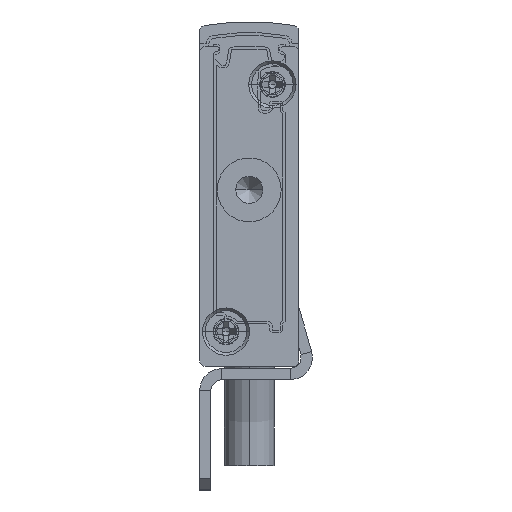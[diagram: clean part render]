
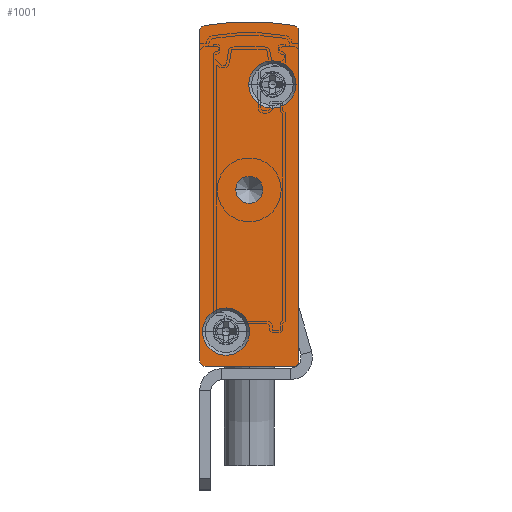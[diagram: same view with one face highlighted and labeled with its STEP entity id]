
A CAD part, front view. The second image highlights one B-rep face of the part: STEP entity #1001.
In plain terms, the highlighted planar face has unit normal (0, -1, 0).
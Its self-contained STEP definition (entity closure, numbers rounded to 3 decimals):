
#55 = AXIS2_PLACEMENT_3D ( 'NONE', #17874, #19758, #10662 ) ;
#662 = DIRECTION ( 'NONE',  ( 0., 1., 0. ) ) ;
#728 = EDGE_CURVE ( 'NONE', #22442, #22239, #19272, .T. ) ;
#909 = AXIS2_PLACEMENT_3D ( 'NONE', #8370, #10234, #2995 ) ;
#962 = ORIENTED_EDGE ( 'NONE', *, *, #8451, .F. ) ;
#1001 = ADVANCED_FACE ( 'NONE', ( #12556, #8794, #7605, #7032 ), #14169, .F. ) ;
#1048 = VECTOR ( 'NONE', #20362, 1000. ) ;
#1121 = VERTEX_POINT ( 'NONE', #1480 ) ;
#1152 = DIRECTION ( 'NONE',  ( -1., 0., 0. ) ) ;
#1236 = CIRCLE ( 'NONE', #23729, 2.15 ) ;
#1296 = CARTESIAN_POINT ( 'NONE',  ( -6.6, -2.5, 3.15 ) ) ;
#1480 = CARTESIAN_POINT ( 'NONE',  ( -3.25, -2.5, 16. ) ) ;
#1517 = VERTEX_POINT ( 'NONE', #9874 ) ;
#1530 = CARTESIAN_POINT ( 'NONE',  ( -8.592, -2.5, 30.893 ) ) ;
#1574 = LINE ( 'NONE', #2061, #21015 ) ;
#1593 = CIRCLE ( 'NONE', #14687, 2.15 ) ;
#1635 = EDGE_CURVE ( 'NONE', #22239, #6242, #2069, .T. ) ;
#1828 = CIRCLE ( 'NONE', #22289, 0.5 ) ;
#1911 = EDGE_CURVE ( 'NONE', #7569, #1121, #2046, .T. ) ;
#1958 = DIRECTION ( 'NONE',  ( -1., 0., 0. ) ) ;
#2046 = CIRCLE ( 'NONE', #21791, 1.25 ) ;
#2061 = CARTESIAN_POINT ( 'NONE',  ( 0., -2.5, 30.402 ) ) ;
#2069 = LINE ( 'NONE', #16678, #16267 ) ;
#2312 = DIRECTION ( 'NONE',  ( 0., 1., 0. ) ) ;
#2455 = AXIS2_PLACEMENT_3D ( 'NONE', #6481, #3149, #1152 ) ;
#2516 = DIRECTION ( 'NONE',  ( -1., 0., 0. ) ) ;
#2791 = CIRCLE ( 'NONE', #55, 23.658 ) ;
#2932 = EDGE_CURVE ( 'NONE', #1121, #7569, #23420, .T. ) ;
#2995 = DIRECTION ( 'NONE',  ( -1., 0., 0. ) ) ;
#3116 = CARTESIAN_POINT ( 'NONE',  ( -0.5, -2.5, 30.402 ) ) ;
#3149 = DIRECTION ( 'NONE',  ( 0., 1., 0. ) ) ;
#3490 = CARTESIAN_POINT ( 'NONE',  ( 0., -2.5, 0.5 ) ) ;
#3719 = CARTESIAN_POINT ( 'NONE',  ( -8.5, -2.5, 30.402 ) ) ;
#3808 = AXIS2_PLACEMENT_3D ( 'NONE', #13715, #18919, #20978 ) ;
#4063 = VERTEX_POINT ( 'NONE', #9689 ) ;
#4069 = DIRECTION ( 'NONE',  ( -1., 0., 0. ) ) ;
#4273 = EDGE_LOOP ( 'NONE', ( #962, #16618 ) ) ;
#4740 = ORIENTED_EDGE ( 'NONE', *, *, #13744, .F. ) ;
#5759 = CARTESIAN_POINT ( 'NONE',  ( -4.45, -2.5, 3.15 ) ) ;
#6242 = VERTEX_POINT ( 'NONE', #9551 ) ;
#6481 = CARTESIAN_POINT ( 'NONE',  ( -0.5, -2.5, 0.5 ) ) ;
#7032 = FACE_BOUND ( 'NONE', #19502, .T. ) ;
#7548 = ORIENTED_EDGE ( 'NONE', *, *, #17623, .F. ) ;
#7569 = VERTEX_POINT ( 'NONE', #11128 ) ;
#7605 = FACE_OUTER_BOUND ( 'NONE', #16830, .T. ) ;
#7796 = ORIENTED_EDGE ( 'NONE', *, *, #9974, .F. ) ;
#8244 = CIRCLE ( 'NONE', #8914, 0.5 ) ;
#8370 = CARTESIAN_POINT ( 'NONE',  ( -8.5, -2.5, 30.402 ) ) ;
#8410 = DIRECTION ( 'NONE',  ( 0., -1., 0. ) ) ;
#8451 = EDGE_CURVE ( 'NONE', #17359, #22389, #1593, .T. ) ;
#8491 = ORIENTED_EDGE ( 'NONE', *, *, #1911, .T. ) ;
#8794 = FACE_BOUND ( 'NONE', #11952, .T. ) ;
#8889 = ORIENTED_EDGE ( 'NONE', *, *, #20019, .F. ) ;
#8914 = AXIS2_PLACEMENT_3D ( 'NONE', #3719, #14833, #1958 ) ;
#9078 = EDGE_CURVE ( 'NONE', #12186, #18896, #1236, .T. ) ;
#9551 = CARTESIAN_POINT ( 'NONE',  ( -8.5, -2.5, 0. ) ) ;
#9620 = CARTESIAN_POINT ( 'NONE',  ( -0.408, -2.5, 30.893 ) ) ;
#9688 = EDGE_CURVE ( 'NONE', #11070, #1517, #22053, .T. ) ;
#9689 = CARTESIAN_POINT ( 'NONE',  ( -9., -2.5, 0.5 ) ) ;
#9874 = CARTESIAN_POINT ( 'NONE',  ( 0., -2.5, 30.402 ) ) ;
#9974 = EDGE_CURVE ( 'NONE', #18896, #12186, #20264, .T. ) ;
#10234 = DIRECTION ( 'NONE',  ( 0., 1., 0. ) ) ;
#10662 = DIRECTION ( 'NONE',  ( -1., 0., 0. ) ) ;
#10885 = CARTESIAN_POINT ( 'NONE',  ( -8.75, -2.5, 3.15 ) ) ;
#10903 = ORIENTED_EDGE ( 'NONE', *, *, #14332, .F. ) ;
#10915 = LINE ( 'NONE', #18471, #1048 ) ;
#11070 = VERTEX_POINT ( 'NONE', #9620 ) ;
#11128 = CARTESIAN_POINT ( 'NONE',  ( -5.75, -2.5, 16. ) ) ;
#11534 = CARTESIAN_POINT ( 'NONE',  ( -8.5, -2.5, 0.5 ) ) ;
#11598 = EDGE_CURVE ( 'NONE', #6242, #4063, #1828, .T. ) ;
#11952 = EDGE_LOOP ( 'NONE', ( #20692, #7796 ) ) ;
#12133 = DIRECTION ( 'NONE',  ( 1., 0., 0. ) ) ;
#12186 = VERTEX_POINT ( 'NONE', #5759 ) ;
#12203 = CARTESIAN_POINT ( 'NONE',  ( -4.55, -2.5, 25.55 ) ) ;
#12308 = EDGE_CURVE ( 'NONE', #22389, #17359, #19431, .T. ) ;
#12556 = FACE_BOUND ( 'NONE', #4273, .T. ) ;
#12812 = ORIENTED_EDGE ( 'NONE', *, *, #9688, .F. ) ;
#13296 = CARTESIAN_POINT ( 'NONE',  ( -2.4, -2.5, 25.55 ) ) ;
#13391 = DIRECTION ( 'NONE',  ( 0., 1., 0. ) ) ;
#13653 = CARTESIAN_POINT ( 'NONE',  ( -0.5, -2.5, 0. ) ) ;
#13715 = CARTESIAN_POINT ( 'NONE',  ( -2.4, -2.5, 25.55 ) ) ;
#13744 = EDGE_CURVE ( 'NONE', #4063, #17935, #10915, .T. ) ;
#14169 = PLANE ( 'NONE',  #909 ) ;
#14170 = VERTEX_POINT ( 'NONE', #1530 ) ;
#14332 = EDGE_CURVE ( 'NONE', #1517, #22442, #1574, .T. ) ;
#14687 = AXIS2_PLACEMENT_3D ( 'NONE', #13296, #8410, #12133 ) ;
#14833 = DIRECTION ( 'NONE',  ( 0., 1., 0. ) ) ;
#15621 = ORIENTED_EDGE ( 'NONE', *, *, #2932, .T. ) ;
#15722 = CARTESIAN_POINT ( 'NONE',  ( -4.5, -2.5, 16. ) ) ;
#16267 = VECTOR ( 'NONE', #18503, 1000. ) ;
#16301 = CARTESIAN_POINT ( 'NONE',  ( -0.25, -2.5, 25.55 ) ) ;
#16618 = ORIENTED_EDGE ( 'NONE', *, *, #12308, .F. ) ;
#16678 = CARTESIAN_POINT ( 'NONE',  ( -8.5, -2.5, 0. ) ) ;
#16830 = EDGE_LOOP ( 'NONE', ( #7548, #4740, #19933, #20831, #18963, #10903, #12812, #8889 ) ) ;
#17228 = CARTESIAN_POINT ( 'NONE',  ( -4.5, -2.5, 16. ) ) ;
#17295 = CARTESIAN_POINT ( 'NONE',  ( -6.6, -2.5, 3.15 ) ) ;
#17359 = VERTEX_POINT ( 'NONE', #16301 ) ;
#17623 = EDGE_CURVE ( 'NONE', #17935, #14170, #8244, .T. ) ;
#17669 = CARTESIAN_POINT ( 'NONE',  ( -9., -2.5, 30.402 ) ) ;
#17743 = DIRECTION ( 'NONE',  ( 1., 0., 0. ) ) ;
#17874 = CARTESIAN_POINT ( 'NONE',  ( -4.5, -2.5, 7.592 ) ) ;
#17935 = VERTEX_POINT ( 'NONE', #17669 ) ;
#18471 = CARTESIAN_POINT ( 'NONE',  ( -9., -2.5, 30.402 ) ) ;
#18503 = DIRECTION ( 'NONE',  ( -1., 0., 0. ) ) ;
#18896 = VERTEX_POINT ( 'NONE', #10885 ) ;
#18919 = DIRECTION ( 'NONE',  ( 0., -1., 0. ) ) ;
#18963 = ORIENTED_EDGE ( 'NONE', *, *, #728, .F. ) ;
#19108 = AXIS2_PLACEMENT_3D ( 'NONE', #17295, #19157, #21059 ) ;
#19157 = DIRECTION ( 'NONE',  ( 0., -1., 0. ) ) ;
#19272 = CIRCLE ( 'NONE', #2455, 0.5 ) ;
#19431 = CIRCLE ( 'NONE', #3808, 2.15 ) ;
#19502 = EDGE_LOOP ( 'NONE', ( #8491, #15621 ) ) ;
#19523 = DIRECTION ( 'NONE',  ( -1., 0., 0. ) ) ;
#19547 = DIRECTION ( 'NONE',  ( 0., -1., 0. ) ) ;
#19758 = DIRECTION ( 'NONE',  ( 0., 1., 0. ) ) ;
#19933 = ORIENTED_EDGE ( 'NONE', *, *, #11598, .F. ) ;
#20019 = EDGE_CURVE ( 'NONE', #14170, #11070, #2791, .T. ) ;
#20264 = CIRCLE ( 'NONE', #19108, 2.15 ) ;
#20362 = DIRECTION ( 'NONE',  ( 0., 0., 1. ) ) ;
#20490 = DIRECTION ( 'NONE',  ( 0., 0., -1. ) ) ;
#20692 = ORIENTED_EDGE ( 'NONE', *, *, #9078, .F. ) ;
#20831 = ORIENTED_EDGE ( 'NONE', *, *, #1635, .F. ) ;
#20978 = DIRECTION ( 'NONE',  ( 1., 0., 0. ) ) ;
#21015 = VECTOR ( 'NONE', #20490, 1000. ) ;
#21059 = DIRECTION ( 'NONE',  ( 1., 0., 0. ) ) ;
#21364 = AXIS2_PLACEMENT_3D ( 'NONE', #17228, #2312, #22856 ) ;
#21660 = DIRECTION ( 'NONE',  ( 0., 1., 0. ) ) ;
#21791 = AXIS2_PLACEMENT_3D ( 'NONE', #15722, #662, #2516 ) ;
#22053 = CIRCLE ( 'NONE', #22400, 0.5 ) ;
#22239 = VERTEX_POINT ( 'NONE', #13653 ) ;
#22289 = AXIS2_PLACEMENT_3D ( 'NONE', #11534, #13391, #4069 ) ;
#22389 = VERTEX_POINT ( 'NONE', #12203 ) ;
#22400 = AXIS2_PLACEMENT_3D ( 'NONE', #3116, #21660, #19523 ) ;
#22442 = VERTEX_POINT ( 'NONE', #3490 ) ;
#22856 = DIRECTION ( 'NONE',  ( -1., 0., 0. ) ) ;
#23420 = CIRCLE ( 'NONE', #21364, 1.25 ) ;
#23729 = AXIS2_PLACEMENT_3D ( 'NONE', #1296, #19547, #17743 ) ;
